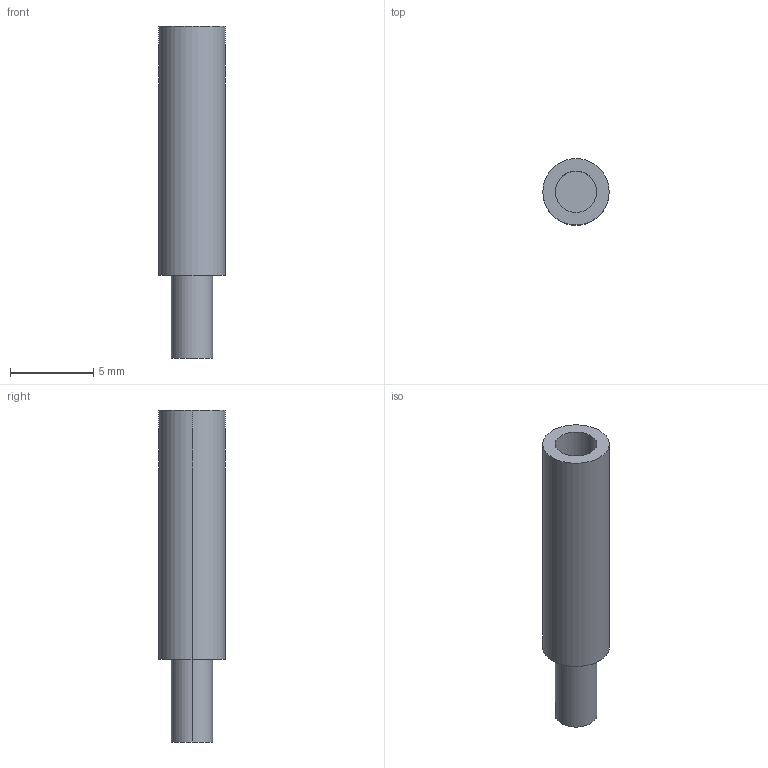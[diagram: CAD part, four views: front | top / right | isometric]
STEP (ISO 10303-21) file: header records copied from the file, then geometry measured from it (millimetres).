
FILE_DESCRIPTION (( 'STEP AP203' ), '1' );
FILE_NAME ('tr-j102.STEP', '2016-10-07T05:24:44', ( '' ), ( '' ), 'SwSTEP 2.0', 'SolidWorks 2014', '' );
FILE_SCHEMA (( 'CONFIG_CONTROL_DESIGN' ));
Length unit declared in the file: millimetre
Products named in the file (1): tr-j102
Bounding box: 4 x 4 x 20 mm (x, y, z)
Volume: 178.7 mm3; surface area: 307.9 mm2
Topology: 1 solids, 1 shells, 10 faces, 18 edges, 12 vertices
Faces by surface type: cylinder 6, plane 4
Entity records: 331 total; most frequent: DIRECTION 52, CARTESIAN_POINT 41, ORIENTED_EDGE 36, AXIS2_PLACEMENT_3D 23, EDGE_CURVE 18, CIRCLE 12, VERTEX_POINT 12, EDGE_LOOP 12
